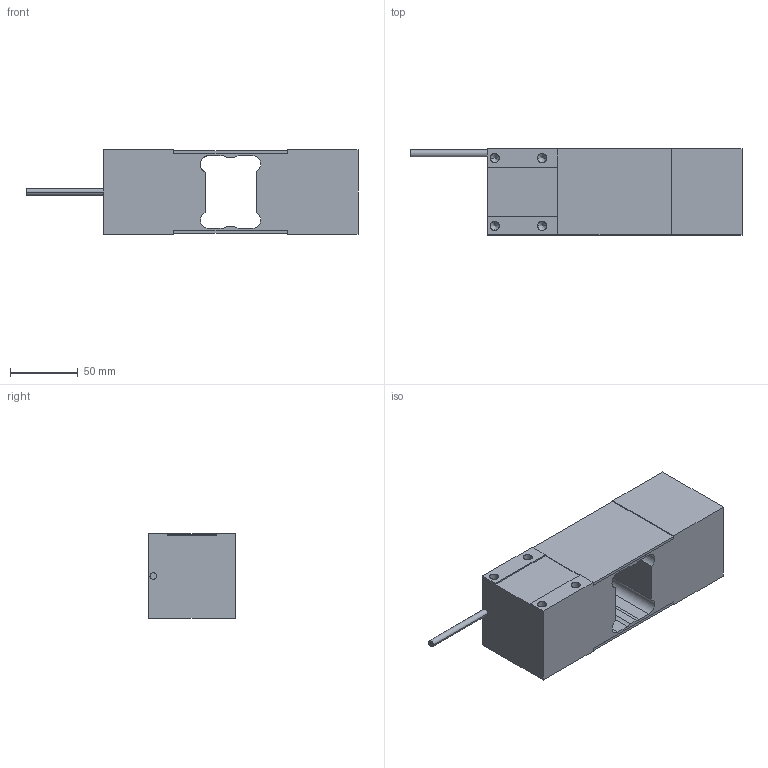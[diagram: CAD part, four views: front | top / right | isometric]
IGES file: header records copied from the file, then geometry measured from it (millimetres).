
Start section: SolidWorks IGES file using analytic representation for surfaces
Global section: file name: C:\Users\nasc01\Desktop\Assemblies for Conversion\Load_Sensor_HISPA60\Load_Sensor_HISPA60_3D\Load_Sensor_HISPA60.IGS; native system: SolidWorks 2013; preprocessor: SolidWorks 2013; author: nasc01; date: 141007.173713; units: millimetre
Bounding box: 244.98 x 63.5 x 62.3 mm (x, y, z)
Surface area: 69040.1 mm2 (no closed solid volume)
Topology: 0 solids, 0 shells, 116 faces, 1169 edges, 1153 vertices
Faces by surface type: revolution 65, bspline 51
